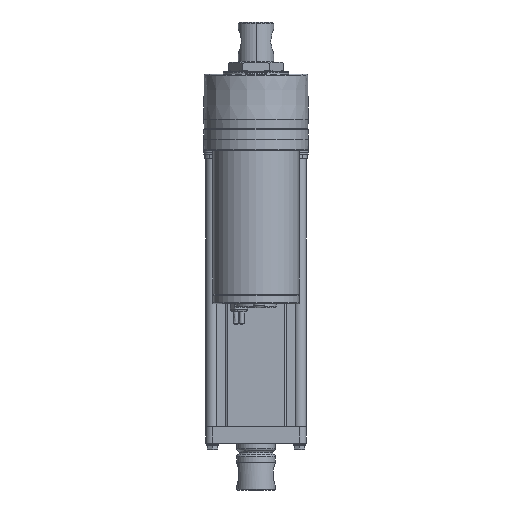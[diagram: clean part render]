
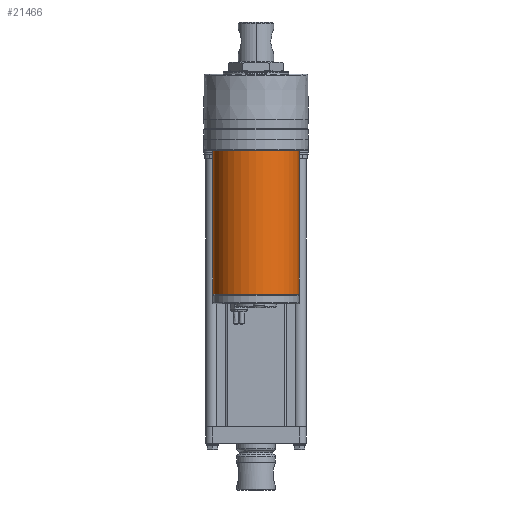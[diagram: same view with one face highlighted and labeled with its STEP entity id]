
A CAD part, front view. The second image highlights one B-rep face of the part: STEP entity #21466.
In plain terms, the highlighted cylindrical face has radius 31.75 mm (diameter 63.5 mm), a partial arc.
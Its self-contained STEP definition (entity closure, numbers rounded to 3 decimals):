
#110 = DIRECTION ( 'NONE',  ( 1., 0., 0. ) ) ;
#1170 = CARTESIAN_POINT ( 'NONE',  ( -31.75, -74.5, -15.8 ) ) ;
#1785 = DIRECTION ( 'NONE',  ( 1., 0., 0. ) ) ;
#2695 = LINE ( 'NONE', #11753, #34976 ) ;
#3352 = ORIENTED_EDGE ( 'NONE', *, *, #8219, .T. ) ;
#8219 = EDGE_CURVE ( 'NONE', #16336, #14553, #28589, .T. ) ;
#9122 = EDGE_LOOP ( 'NONE', ( #11869, #18634, #3352, #23798 ) ) ;
#11264 = DIRECTION ( 'NONE',  ( 0., 0., 1. ) ) ;
#11402 = DIRECTION ( 'NONE',  ( 0., 0., 1. ) ) ;
#11753 = CARTESIAN_POINT ( 'NONE',  ( -31.75, -74.5, -15.8 ) ) ;
#11869 = ORIENTED_EDGE ( 'NONE', *, *, #19080, .F. ) ;
#12752 = CYLINDRICAL_SURFACE ( 'NONE', #36764, 31.75 ) ;
#12938 = CIRCLE ( 'NONE', #14111, 31.75 ) ;
#14111 = AXIS2_PLACEMENT_3D ( 'NONE', #17557, #25307, #31181 ) ;
#14553 = VERTEX_POINT ( 'NONE', #20736 ) ;
#14769 = VECTOR ( 'NONE', #11402, 1000. ) ;
#16336 = VERTEX_POINT ( 'NONE', #31452 ) ;
#17245 = CARTESIAN_POINT ( 'NONE',  ( 31.75, -74.5, -15.8 ) ) ;
#17557 = CARTESIAN_POINT ( 'NONE',  ( 0., -74.5, -121.8 ) ) ;
#18634 = ORIENTED_EDGE ( 'NONE', *, *, #33179, .T. ) ;
#19080 = EDGE_CURVE ( 'NONE', #35308, #35411, #2695, .T. ) ;
#20736 = CARTESIAN_POINT ( 'NONE',  ( 31.75, -74.5, -15.8 ) ) ;
#21038 = DIRECTION ( 'NONE',  ( 0., 0., 1. ) ) ;
#21178 = CARTESIAN_POINT ( 'NONE',  ( -31.75, -74.5, -121.8 ) ) ;
#21466 = ADVANCED_FACE ( 'NONE', ( #27089 ), #12752, .T. ) ;
#22002 = AXIS2_PLACEMENT_3D ( 'NONE', #33951, #11264, #110 ) ;
#22332 = EDGE_CURVE ( 'NONE', #35411, #14553, #28672, .T. ) ;
#23798 = ORIENTED_EDGE ( 'NONE', *, *, #22332, .F. ) ;
#25307 = DIRECTION ( 'NONE',  ( 0., 0., 1. ) ) ;
#27089 = FACE_OUTER_BOUND ( 'NONE', #9122, .T. ) ;
#28589 = LINE ( 'NONE', #17245, #14769 ) ;
#28672 = CIRCLE ( 'NONE', #22002, 31.75 ) ;
#31181 = DIRECTION ( 'NONE',  ( 1., 0., 0. ) ) ;
#31452 = CARTESIAN_POINT ( 'NONE',  ( 31.75, -74.5, -121.8 ) ) ;
#33179 = EDGE_CURVE ( 'NONE', #35308, #16336, #12938, .T. ) ;
#33951 = CARTESIAN_POINT ( 'NONE',  ( 0., -74.5, -15.8 ) ) ;
#34432 = DIRECTION ( 'NONE',  ( 0., 0., 1. ) ) ;
#34976 = VECTOR ( 'NONE', #34432, 1000. ) ;
#35308 = VERTEX_POINT ( 'NONE', #21178 ) ;
#35411 = VERTEX_POINT ( 'NONE', #1170 ) ;
#35805 = CARTESIAN_POINT ( 'NONE',  ( 0., -74.5, -15.8 ) ) ;
#36764 = AXIS2_PLACEMENT_3D ( 'NONE', #35805, #21038, #1785 ) ;
